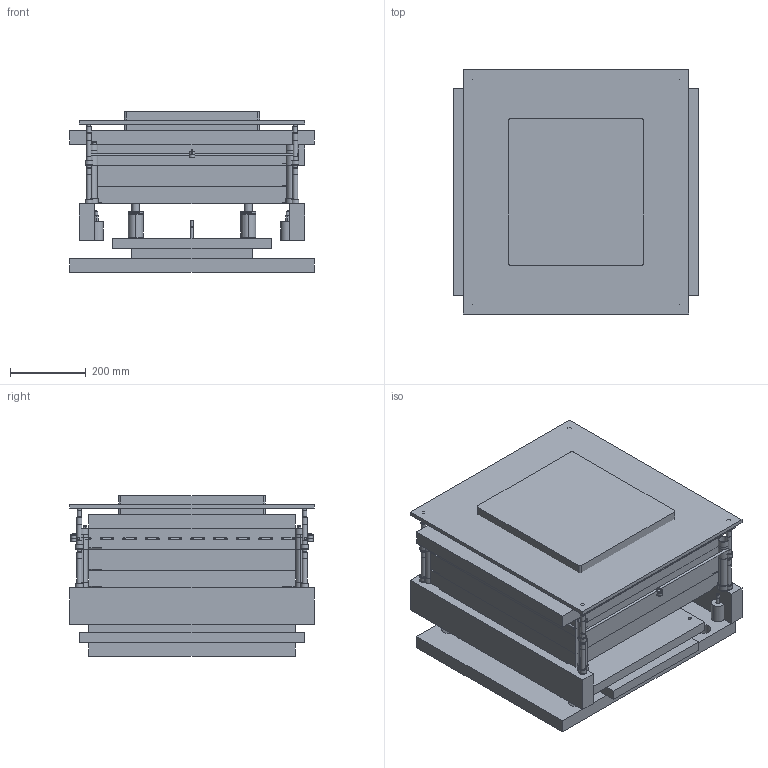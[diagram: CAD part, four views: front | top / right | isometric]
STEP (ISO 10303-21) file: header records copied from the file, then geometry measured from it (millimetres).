
FILE_DESCRIPTION(('Open CASCADE Model'),'2;1');
FILE_NAME('Open CASCADE Shape Model','2026-07-13T07:07:42',('Author'),( 'Open CASCADE'),'Open CASCADE STEP processor 7.9','Open CASCADE 7.9' ,'Unknown');
FILE_SCHEMA(('AUTOMOTIVE_DESIGN { 1 0 10303 214 1 1 1 1 }'));
Length unit declared in the file: millimetre
Products named in the file (122): mold_builder_assembly; Fixed_Half; cavity_plate; clamp_fixed; guide_pin_0; guide_pin_1; guide_pin_2; guide_pin_3; guide_bushing_0; guide_bushing_1; guide_bushing_2; guide_bushing_3; screw_top_0; screw_top_1; screw_top_2; screw_top_3; dowel_pin_0; dowel_pin_1; insulation_plate; hot_runner_manifold; hot_runner_nozzle_0; slide_1_K2528; Moving_Half; clamp_moving; support_plate; core_plate; spacer_block; support_pillar_0; support_pillar_1; support_pillar_2; support_pillar_3; screw_bot_0; screw_bot_1; screw_bot_2; screw_bot_3; cooling_channel_0; cooling_channel_1; cooling_channel_2; cooling_channel_3; cooling_channel_4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
Assembly tree (121 placements, depth 3):
  mold_builder_assembly
    Fixed_Half
      cavity_plate
      clamp_fixed
      guide_pin_0
      guide_pin_1
      guide_pin_2
      guide_pin_3
      guide_bushing_0
      guide_bushing_1
      guide_bushing_2
      guide_bushing_3
      screw_top_0
      screw_top_1
      screw_top_2
      screw_top_3
      dowel_pin_0
      dowel_pin_1
      insulation_plate
      hot_runner_manifold
      hot_runner_nozzle_0
      slide_1_K2528
    Moving_Half
      clamp_moving
      support_plate
      core_plate
      spacer_block
      support_pillar_0
      support_pillar_1
      support_pillar_2
      support_pillar_3
      screw_bot_0
      screw_bot_1
      screw_bot_2
      screw_bot_3
      cooling_channel_0
      cooling_channel_1
      cooling_channel_2
      cooling_channel_3
      cooling_channel_4
      cooling_channel_5
      cooling_channel_6
      cooling_channel_7
      cooling_channel_8
      cooling_channel_9
      cooling_channel_10
      cooling_channel_11
      cooling_channel_12
      cooling_channel_13
      cooling_channel_14
      cooling_channel_15
      cooling_channel_16
      cooling_channel_17
      cooling_channel_18
      cooling_channel_19
      cooling_channel_20
      cooling_uturn_0
      cooling_uturn_1
      cooling_uturn_2
      cooling_uturn_3
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Bounding box: 646 x 646 x 425 mm (x, y, z)
Volume: 99931509.9 mm3; surface area: 7508825.9 mm2
Topology: 210 solids, 210 shells, 1975 faces, 3736 edges, 2286 vertices
Faces by surface type: plane 818, cylinder 761, cone 306, bspline 52, torus 30, sphere 8
Full cylindrical faces by diameter (mm): 3.063 x14, 5.628 x10, 6 x41, 8.04 x6, 8.169 x1, 8.5 x4, 9.728 x2, 10.2 x8, 10.211 x1, 11.4 x2, 11.98 x8, 12 x16, 13.5 x8, 14 x8, 15 x2, 16.6 x4, 18 x20, 20 x13, 20.1 x12, 23 x1, 24.1 x4, 25 x2, 26 x8, 28 x8, 29 x1, 42 x20, 48 x8, 90 x1, 125 x1
Entity records: 114548 total; most frequent: CARTESIAN_POINT 34037, DIRECTION 15815, ORIENTED_EDGE 7376, PCURVE 7376, DEFINITIONAL_REPRESENTATION 7376, LINE 7297, VECTOR 7297, AXIS2_PLACEMENT_3D 3915
